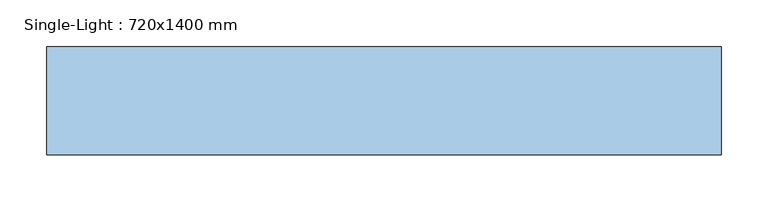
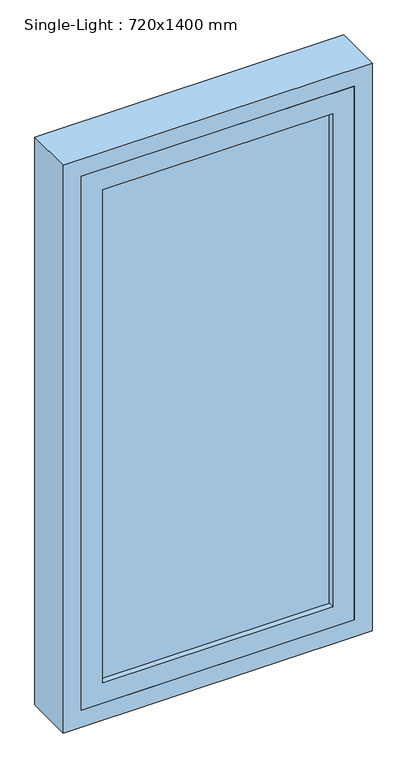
"""IFC4 building model written with IfcOpenShell, lengths in millimetres: window geometry, Single-Light : 720x1400 mm."""

import ifcopenshell
import ifcopenshell.guid

model = None  # the IFC model being written
_history = None  # IfcOwnerHistory: only IFC2X3 demands one
_inside = {}  # id of a spatial element -> (the spatial element, [elements in it])
_under = {}  # id of a project, library or spatial element -> (it, [spatial elements below it])
_declared = {}  # id of a project -> (the project, [libraries it declares])
_typed = {}  # id of a type object -> (the type object, [elements of that type])
_made_of = {}  # id of a material, layer set ... -> (it, [elements and type objects made of it])


def new_model(schema):
    """Start an empty IFC model of exactly this schema.

    Asked for "IFC4X3", IfcOpenShell would pick the latest addendum, in which some entities
    have other attributes; the version numbers below select the first issue.
    IFC2X3 requires an IfcOwnerHistory on every rooted entity: one is made here for all.
    """
    global model, _history
    if schema == "IFC4X3":
        model = ifcopenshell.file(schema_version=(4, 3, 0, 0))
    else:
        model = ifcopenshell.file(schema=schema)
    _inside.clear()
    _under.clear()
    _declared.clear()
    _typed.clear()
    _made_of.clear()
    _history = None
    if model.schema == "IFC2X3":
        org = make("IfcOrganization", Name="unknown")
        user = make(
            "IfcPersonAndOrganization",
            ThePerson=make("IfcPerson", FamilyName="unknown"),
            TheOrganization=org,
        )
        app = make(
            "IfcApplication",
            ApplicationDeveloper=org,
            Version="unknown",
            ApplicationFullName="unknown",
            ApplicationIdentifier="unknown",
        )
        _history = make(
            "IfcOwnerHistory",
            OwningUser=user,
            OwningApplication=app,
            ChangeAction="ADDED",
            CreationDate=0,
        )
    return model


def make(cls, **values):
    """One entity of the class cls with the attributes given. An attribute that is None is left unset."""
    return model.create_entity(
        cls, **{name: value for name, value in values.items() if value is not None}
    )


def rooted(cls, **values):
    """An entity with a GlobalId (a new one), such as an element, a storey or a relation."""
    return make(cls, GlobalId=ifcopenshell.guid.new(), OwnerHistory=_history, **values)


def si_unit(unit_type, name, prefix=None):
    """IfcSIUnit, for example si_unit("LENGTHUNIT", "METRE", prefix="MILLI")."""
    return make("IfcSIUnit", UnitType=unit_type, Prefix=prefix, Name=name)


def assignment(units):
    """IfcUnitAssignment: the units of a project."""
    return None if units is None else make("IfcUnitAssignment", Units=units)


def point(xyz):
    """IfcCartesianPoint."""
    return None if xyz is None else make("IfcCartesianPoint", Coordinates=xyz)


def direction(xyz):
    """IfcDirection."""
    return None if xyz is None else make("IfcDirection", DirectionRatios=xyz)


def frame(location, z_axis=None, x_axis=None):
    """IfcAxis2Placement3D, a coordinate frame: its origin and axes. An axis left out is left unset."""
    return make(
        "IfcAxis2Placement3D",
        Location=point(location),
        Axis=direction(z_axis),
        RefDirection=direction(x_axis),
    )


def origin():
    """The frame at (0, 0, 0) with its axes left unset."""
    return frame((0.0, 0.0, 0.0))


def place(relative_to, where):
    """IfcLocalPlacement: puts the frame where relative to a parent placement (None: the world)."""
    return make(
        "IfcLocalPlacement", PlacementRelTo=relative_to, RelativePlacement=where
    )


def context(
    kind, dimensions, precision=None, world=None, true_north=None, identifier=None
):
    """IfcGeometricRepresentationContext, for example the 3D "Model" context."""
    return make(
        "IfcGeometricRepresentationContext",
        ContextIdentifier=identifier,
        ContextType=kind,
        CoordinateSpaceDimension=dimensions,
        Precision=precision,
        WorldCoordinateSystem=world,
        TrueNorth=true_north,
    )


def project(units=None, contexts=None):
    """IfcProject with its units and contexts."""
    return rooted(
        "IfcProject",
        Name="project",
        RepresentationContexts=contexts,
        UnitsInContext=assignment(units),
    )


def spatial(cls, under=None, at=None, **own):
    """A site, building, storey or space (cls), placed at a placement, below another one or the project."""
    s = rooted(cls, ObjectPlacement=at, **own)
    if under is not None:
        _under.setdefault(under.id(), (under, []))[1].append(s)
    return s


def polyline(points):
    """IfcPolyline through the points."""
    return make("IfcPolyline", Points=[point(p) for p in points])


def outline(outer, holes=None, kind="AREA"):
    """IfcArbitraryClosedProfileDef: a profile drawn as a closed curve; with holes, ...WithVoids."""
    if holes is None:
        return make("IfcArbitraryClosedProfileDef", ProfileType=kind, OuterCurve=outer)
    return make(
        "IfcArbitraryProfileDefWithVoids",
        ProfileType=kind,
        OuterCurve=outer,
        InnerCurves=holes,
    )


def extrude(swept, where, along, depth):
    """IfcExtrudedAreaSolid: the profile swept, set in the frame where, extruded along a direction by depth."""
    return make(
        "IfcExtrudedAreaSolid",
        SweptArea=swept,
        Position=where,
        ExtrudedDirection=direction(along),
        Depth=depth,
    )


def faces_of(points, faces, orient=None, outer=None):
    """IfcFace entities. A face is a list of loops; a loop is a list of indices into points, from 0.

    orient and outer hold one flag for each loop. By default every Orientation is true, the
    first loop of a face is its IfcFaceOuterBound and the others are IfcFaceBound.
    """
    made = []
    for i, loops in enumerate(faces):
        bounds = []
        for j, loop in enumerate(loops):
            is_outer = j == 0 if outer is None else outer[i][j]
            bounds.append(
                make(
                    "IfcFaceOuterBound" if is_outer else "IfcFaceBound",
                    Bound=make("IfcPolyLoop", Polygon=[points[k] for k in loop]),
                    Orientation=True if orient is None else orient[i][j],
                )
            )
        made.append(make("IfcFace", Bounds=bounds))
    return made


def faceted_brep(points, faces, orient=None, outer=None, voids=None):
    """IfcFacetedBrep: a solid bounded by flat faces; with voids (closed shells), ...WithVoids."""
    shared = [point(p) for p in points]
    hull = make("IfcClosedShell", CfsFaces=faces_of(shared, faces, orient, outer))
    if voids is None:
        return make("IfcFacetedBrep", Outer=hull)
    return make(
        "IfcFacetedBrepWithVoids",
        Outer=hull,
        Voids=[
            make(cls, CfsFaces=faces_of(shared, fs, o, b)) for cls, fs, o, b in voids
        ],
    )


def shape(context_of_items, identifier, shape_type, items):
    """IfcShapeRepresentation: the items that make up one representation, for example the "Body"."""
    return make(
        "IfcShapeRepresentation",
        ContextOfItems=context_of_items,
        RepresentationIdentifier=identifier,
        RepresentationType=shape_type,
        Items=items,
    )


def source(mapping_origin, context_of_items, identifier, shape_type, items):
    """IfcRepresentationMap: a shape defined once, which mapped items show again and again."""
    return make(
        "IfcRepresentationMap",
        MappingOrigin=mapping_origin,
        MappedRepresentation=shape(context_of_items, identifier, shape_type, items),
    )


def transform(
    local_origin,
    x_axis=None,
    y_axis=None,
    z_axis=None,
    scale=None,
    scale2=None,
    scale3=None,
    uniform=True,
):
    """IfcCartesianTransformationOperator3D, or its non-uniform kind. x_axis, y_axis, z_axis: its Axis1, 2, 3."""
    if uniform:
        return make(
            "IfcCartesianTransformationOperator3D",
            Axis1=direction(x_axis),
            Axis2=direction(y_axis),
            LocalOrigin=point(local_origin),
            Scale=scale,
            Axis3=direction(z_axis),
        )
    return make(
        "IfcCartesianTransformationOperator3DnonUniform",
        Axis1=direction(x_axis),
        Axis2=direction(y_axis),
        LocalOrigin=point(local_origin),
        Scale=scale,
        Axis3=direction(z_axis),
        Scale2=scale2,
        Scale3=scale3,
    )


def mapped(mapping_source, mapping_target):
    """IfcMappedItem: shows the shape of a source again, moved by a transform."""
    return make(
        "IfcMappedItem", MappingSource=mapping_source, MappingTarget=mapping_target
    )


def made_of(thing, what):
    """Note that an element or type object is made of a material, layer set ...; save() writes the relation."""
    if what is not None:
        _made_of.setdefault(what.id(), (what, []))[1].append(thing)
    return thing


def element(
    cls,
    number,
    at=None,
    inside=None,
    cuts=None,
    type_object=None,
    material=None,
    context=None,
    identifier="Body",
    shape_type=None,
    held_by="IfcProductDefinitionShape",
    body=None,
    shapes=None,
    **own,
):
    """One element of the class cls, such as IfcWall. Its Tag is "e" and its number.

    at: its placement. inside: the storey or other place that contains it. cuts: it is an
    opening in that element (IfcRelVoidsElement). A single representation is given by context,
    identifier, shape_type and body (its items); several are given by shapes. held_by: the class
    of the entity that holds the representations. save() writes the other relations.
    """
    e = rooted(cls, Tag="e%d" % number, ObjectPlacement=at, **own)
    if body is not None:
        shapes = [shape(context, identifier, shape_type, body)]
    if shapes is not None:
        e.Representation = make(held_by, Representations=shapes)
    if inside is not None:
        _inside.setdefault(inside.id(), (inside, []))[1].append(e)
    if cuts is not None:
        rooted(
            "IfcRelVoidsElement", RelatingBuildingElement=cuts, RelatedOpeningElement=e
        )
    if type_object is not None:
        _typed.setdefault(type_object.id(), (type_object, []))[1].append(e)
    return made_of(e, material)


def aggregate(whole, parts):
    """IfcRelAggregates: a whole, such as a stair, and the parts it consists of."""
    return rooted("IfcRelAggregates", RelatingObject=whole, RelatedObjects=parts)


def save(model, path):
    """Write the relations noted so far, then the file.

    IfcRelAggregates (storeys below a building ...), IfcRelContainedInSpatialStructure (elements
    in a storey), IfcRelDefinesByType, IfcRelAssociatesMaterial and IfcRelDeclares: one each for
    every whole, place, type object, material and project.
    """
    for whole, parts in _under.values():
        aggregate(whole, parts)
    for where, things in _inside.values():
        rooted(
            "IfcRelContainedInSpatialStructure",
            RelatedElements=things,
            RelatingStructure=where,
        )
    for kind, things in _typed.values():
        rooted("IfcRelDefinesByType", RelatedObjects=things, RelatingType=kind)
    for what, things in _made_of.values():
        rooted("IfcRelAssociatesMaterial", RelatedObjects=things, RelatingMaterial=what)
    for by, libraries in _declared.values():
        rooted("IfcRelDeclares", RelatingContext=by, RelatedDefinitions=libraries)
    model.write(path)


def single_light_720x1400_mm_b30d6d94(model_context):
    return source(origin(), model_context, "Body", "SolidModel", [
        extrude(outline(polyline([(-268.0, -176.0), (-268.0, -154.0), (268.0, -154.0), (268.0, -176.0), (-268.0, -176.0)])), frame((0.0, 0.0, 892.0), z_axis=(0.0, 0.0, 1.0), x_axis=(1.0, 0.0, 0.0)), (0.0, 0.0, 1.0), 1216.0),
        extrude(outline(polyline([(2158.0, -318.0), (842.0, -318.0), (842.0, 318.0), (2158.0, 318.0), (2158.0, -318.0)]), holes=[polyline([(892.0, -268.0), (2108.0, -268.0), (2108.0, 268.0), (892.0, 268.0), (892.0, -268.0)])]), frame((0.0, -190.0, 0.0), z_axis=(0.0, 1.0, 0.0), x_axis=(0.0, 0.0, 1.0)), (0.0, 0.0, 1.0), 50.0),
        faceted_brep([(-318.0, -190.0, 2158.0), (-318.0, -190.0, 842.0), (-318.0, -140.0, 842.0), (-318.0, -140.0, 2158.0), (-360.0, -190.0, 800.0), (360.0, -190.0, 800.0), (360.0, -190.0, 2200.0), (-360.0, -190.0, 2200.0), (318.0, -190.0, 2158.0), (318.0, -190.0, 842.0), (318.0, -140.0, 842.0), (318.0, -140.0, 2158.0), (-360.0, -75.0, 2200.0), (-360.0, -75.0, 800.0), (360.0, -75.0, 800.0), (360.0, -75.0, 2200.0), (-303.0, -140.0, 2143.0), (303.0, -140.0, 2143.0), (303.0, -140.0, 857.0), (-303.0, -140.0, 857.0), (-303.0, -75.0, 857.0), (-303.0, -75.0, 2143.0), (303.0, -75.0, 857.0), (303.0, -75.0, 2143.0)], [[[0, 1, 2, 3]], [[4, 5, 6, 7], [0, 8, 9, 1]], [[9, 10, 2, 1]], [[10, 9, 8, 11]], [[12, 13, 4, 7]], [[6, 5, 14, 15]], [[13, 14, 5, 4]], [[3, 2, 10, 11], [16, 17, 18, 19]], [[16, 19, 20, 21]], [[20, 19, 18, 22]], [[23, 22, 18, 17]], [[12, 15, 14, 13], [21, 20, 22, 23]], [[0, 3, 11, 8]], [[16, 21, 23, 17]], [[6, 15, 12, 7]]]),
    ])


if __name__ == "__main__":
    model = new_model("IFC4")
    model_context = context("Model", 3, world=origin())
    ifc_project = project(units=[si_unit("LENGTHUNIT", "METRE", prefix="MILLI")], contexts=[model_context])
    site = spatial("IfcSite", under=ifc_project)
    building = spatial("IfcBuilding", under=site)
    placement = place(None, origin())
    single_light_720x1400_mm_shape = single_light_720x1400_mm_b30d6d94(model_context)
    element("IfcWindow", 1, ObjectType="Single-Light : 720x1400 mm", at=placement, inside=building, context=model_context, shape_type="MappedRepresentation", body=[
        mapped(single_light_720x1400_mm_shape, transform((0.0, 0.0, 0.0), x_axis=(1.0, 0.0, 0.0), y_axis=(0.0, 1.0, 0.0), z_axis=(0.0, 0.0, 1.0))),
    ])
    save(model, "model.ifc")
